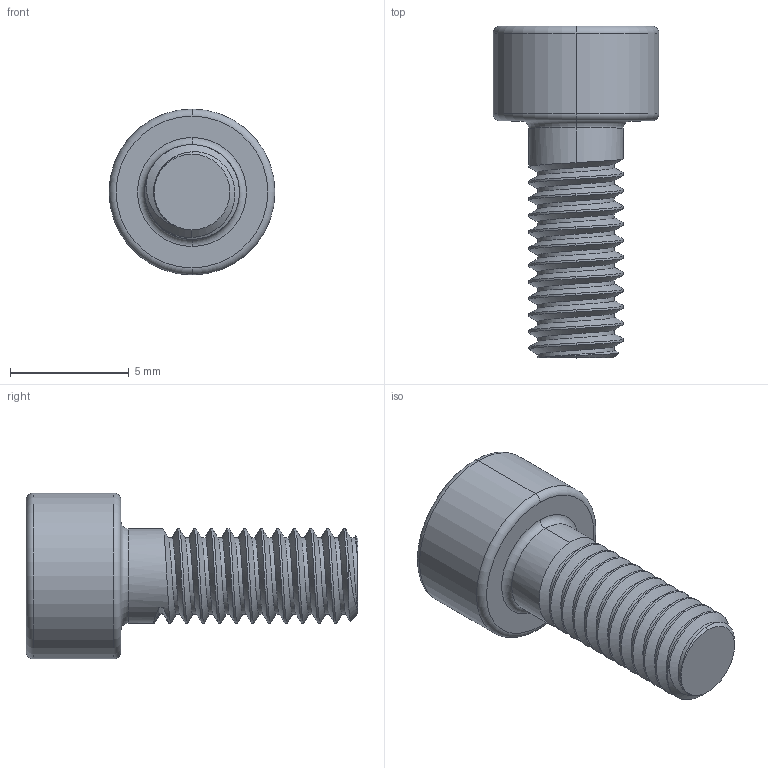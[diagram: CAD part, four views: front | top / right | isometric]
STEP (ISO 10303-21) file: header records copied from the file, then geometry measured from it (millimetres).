
FILE_DESCRIPTION (( 'STEP AP214' ), '1' );
FILE_NAME ('Âèíò Ì4õ10 DIN912.STEP', '2021-03-26T07:23:19', ( 'Home' ), ( '' ), 'SwSTEP 2.0', 'SolidWorks 2020', '' );
FILE_SCHEMA (( 'AUTOMOTIVE_DESIGN' ));
Length unit declared in the file: millimetre
Products named in the file (1): 妈眚 󊅙0 DIN912
Bounding box: 7 x 14 x 7 mm (x, y, z)
Volume: 232.6 mm3; surface area: 358.1 mm2
Topology: 1 solids, 1 shells, 63 faces, 160 edges, 99 vertices
Faces by surface type: cylinder 32, plane 18, torus 6, cone 4, bspline 3
Entity records: 3477 total; most frequent: CARTESIAN_POINT 2119, ORIENTED_EDGE 316, DIRECTION 242, EDGE_CURVE 158, VERTEX_POINT 99, AXIS2_PLACEMENT_3D 90, EDGE_LOOP 65, FACE_OUTER_BOUND 63
